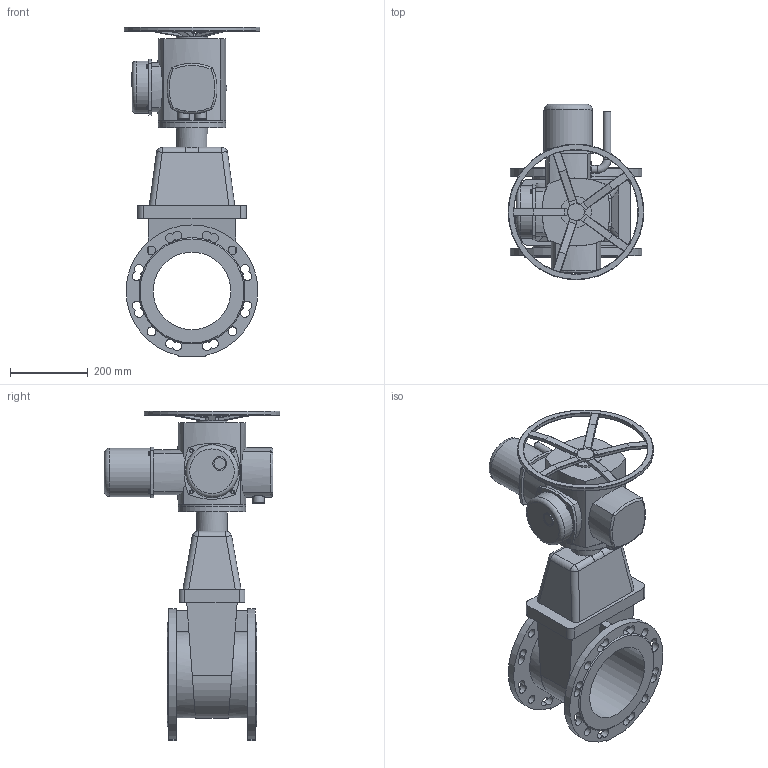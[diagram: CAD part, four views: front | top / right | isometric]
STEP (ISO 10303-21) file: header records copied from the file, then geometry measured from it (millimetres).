
FILE_DESCRIPTION(('STEP AP203'), '1');
FILE_NAME('青溻桄赅 47GVA DN200 PN10_PN16+MT903.Z20', '', ('UNSPECIFIED'), ('UNSPECIFIED'), 'ASCON STEP Converter 1.6', 'ASCON Math Kernel', '');
FILE_SCHEMA(('CONFIG_CONTROL_DESIGN'));
Length unit declared in the file: millimetre
Bounding box: 350 x 453 x 850 mm (x, y, z)
Volume: 22953427.8 mm3; surface area: 1302696.9 mm2
Topology: 2 solids, 2 shells, 448 faces, 1154 edges, 709 vertices
Faces by surface type: cylinder 217, plane 190, torus 25, bspline 9, cone 7
Full cylindrical faces by diameter (mm): 10 x8, 13.835 x4, 18 x4, 20 x2, 23 x8, 26 x1, 29.22 x1, 30 x2, 36 x1, 40 x1, 80 x2, 100 x2, 125 x1, 135 x1, 175 x2, 200 x1, 350 x1
Entity records: 23145 total; most frequent: CARTESIAN_POINT 9238, ORIENTED_EDGE 2134, DIRECTION 2101, EDGE_CURVE 1067, AXIS2_PLACEMENT_3D 862, VERTEX_POINT 700, EDGE_LOOP 593, FACE_BOUND 468
